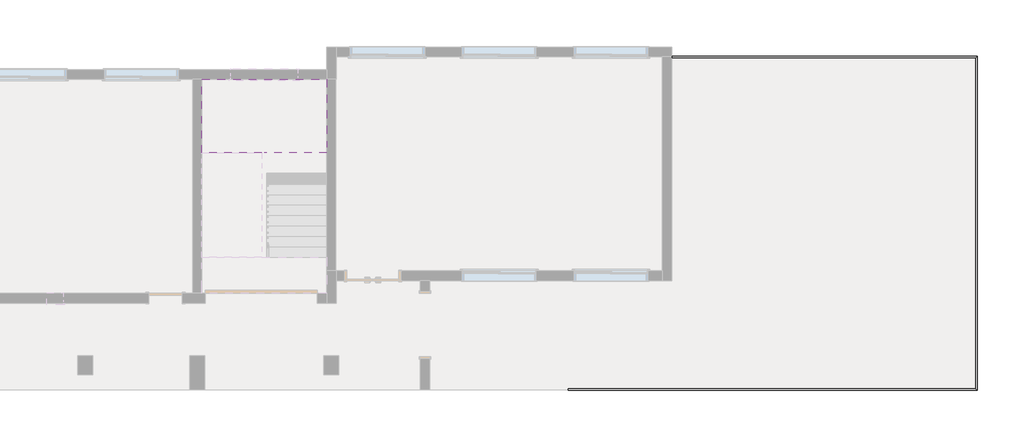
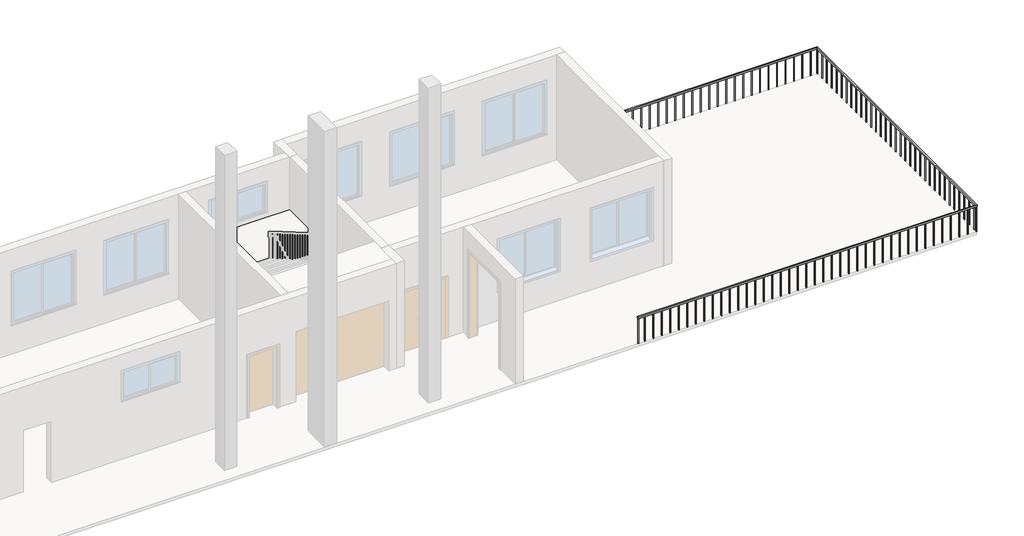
# One storey, part 3 of 3: 1 railing, 1 slab.
"""IFC4 building model written with IfcOpenShell, lengths in millimetres."""

from ifc_helpers import new_model, si_unit, origin, origin_with_axes, place, context, project, spatial, polyline, outline, extrude, faceted_brep, element, save

model = new_model("IFC4")

# Units and contexts
model_context = context("Model", 3, world=origin())
ifc_project = project(units=[si_unit("LENGTHUNIT", "METRE", prefix="MILLI")], contexts=[model_context])

# Site, building, storey
site = spatial("IfcSite", under=ifc_project)
building = spatial("IfcBuilding", under=site)
storey = spatial("IfcBuildingStorey", under=building, Name="标高 1", Elevation=0.0)

# Railing
placement = place(None, origin())
element("IfcRailing", 1, ObjectType="900mm", at=placement, inside=storey, context=model_context, shape_type="SolidModel", body=[
    faceted_brep([(26149.6165825, 2144.0398513, 900.0), (26149.6165825, 2144.0398513, 850.0), (26149.6165825, 2094.0398513, 850.0), (26149.6165825, 2094.0398513, 900.0), (23366.9461532, -6825.9601487, 900.0), (23366.9461532, -6775.9601487, 900.0), (23366.9461532, -6775.9601487, 850.0), (23366.9461532, -6825.9601487, 850.0), (34349.6165825, 2144.0398513, 900.0), (34349.6165825, 2144.0398513, 850.0), (34299.6165825, 2094.0398513, 850.0), (34299.6165825, 2094.0398513, 900.0), (34349.6165825, -6825.9601487, 900.0), (34349.6165825, -6825.9601487, 850.0), (34299.6165825, -6775.9601487, 850.0), (34299.6165825, -6775.9601487, 900.0)], [[[0, 1, 2, 3]], [[4, 5, 6, 7]], [[1, 0, 8, 9]], [[2, 1, 9, 10]], [[3, 2, 10, 11]], [[0, 3, 11, 8]], [[9, 8, 12, 13]], [[10, 9, 13, 14]], [[11, 10, 14, 15]], [[8, 11, 15, 12]], [[13, 12, 4, 7]], [[14, 13, 7, 6]], [[15, 14, 6, 5]], [[12, 15, 5, 4]]]),
    extrude(outline(polyline([(23609.6165825, -6790.9601487), (23609.6165825, -6810.9601487), (23589.6165825, -6810.9601487), (23589.6165825, -6790.9601487), (23609.6165825, -6790.9601487)])), origin_with_axes(), (0.0, 0.0, 1.0), 850.0),
    extrude(outline(polyline([(23884.6165825, -6790.9601487), (23884.6165825, -6810.9601487), (23864.6165825, -6810.9601487), (23864.6165825, -6790.9601487), (23884.6165825, -6790.9601487)])), origin_with_axes(), (0.0, 0.0, 1.0), 850.0),
    extrude(outline(polyline([(24159.6165825, -6790.9601487), (24159.6165825, -6810.9601487), (24139.6165825, -6810.9601487), (24139.6165825, -6790.9601487), (24159.6165825, -6790.9601487)])), origin_with_axes(), (0.0, 0.0, 1.0), 850.0),
    extrude(outline(polyline([(24434.6165825, -6790.9601487), (24434.6165825, -6810.9601487), (24414.6165825, -6810.9601487), (24414.6165825, -6790.9601487), (24434.6165825, -6790.9601487)])), origin_with_axes(), (0.0, 0.0, 1.0), 850.0),
    extrude(outline(polyline([(24709.6165825, -6790.9601487), (24709.6165825, -6810.9601487), (24689.6165825, -6810.9601487), (24689.6165825, -6790.9601487), (24709.6165825, -6790.9601487)])), origin_with_axes(), (0.0, 0.0, 1.0), 850.0),
    extrude(outline(polyline([(24984.6165825, -6790.9601487), (24984.6165825, -6810.9601487), (24964.6165825, -6810.9601487), (24964.6165825, -6790.9601487), (24984.6165825, -6790.9601487)])), origin_with_axes(), (0.0, 0.0, 1.0), 850.0),
    extrude(outline(polyline([(25259.6165825, -6790.9601487), (25259.6165825, -6810.9601487), (25239.6165825, -6810.9601487), (25239.6165825, -6790.9601487), (25259.6165825, -6790.9601487)])), origin_with_axes(), (0.0, 0.0, 1.0), 850.0),
    extrude(outline(polyline([(25534.6165825, -6790.9601487), (25534.6165825, -6810.9601487), (25514.6165825, -6810.9601487), (25514.6165825, -6790.9601487), (25534.6165825, -6790.9601487)])), origin_with_axes(), (0.0, 0.0, 1.0), 850.0),
    extrude(outline(polyline([(25809.6165825, -6790.9601487), (25809.6165825, -6810.9601487), (25789.6165825, -6810.9601487), (25789.6165825, -6790.9601487), (25809.6165825, -6790.9601487)])), origin_with_axes(), (0.0, 0.0, 1.0), 850.0),
    extrude(outline(polyline([(26084.6165825, -6790.9601487), (26084.6165825, -6810.9601487), (26064.6165825, -6810.9601487), (26064.6165825, -6790.9601487), (26084.6165825, -6790.9601487)])), origin_with_axes(), (0.0, 0.0, 1.0), 850.0),
    extrude(outline(polyline([(26359.6165825, -6790.9601487), (26359.6165825, -6810.9601487), (26339.6165825, -6810.9601487), (26339.6165825, -6790.9601487), (26359.6165825, -6790.9601487)])), origin_with_axes(), (0.0, 0.0, 1.0), 850.0),
    extrude(outline(polyline([(26634.6165825, -6790.9601487), (26634.6165825, -6810.9601487), (26614.6165825, -6810.9601487), (26614.6165825, -6790.9601487), (26634.6165825, -6790.9601487)])), origin_with_axes(), (0.0, 0.0, 1.0), 850.0),
    extrude(outline(polyline([(26909.6165825, -6790.9601487), (26909.6165825, -6810.9601487), (26889.6165825, -6810.9601487), (26889.6165825, -6790.9601487), (26909.6165825, -6790.9601487)])), origin_with_axes(), (0.0, 0.0, 1.0), 850.0),
    extrude(outline(polyline([(27184.6165825, -6790.9601487), (27184.6165825, -6810.9601487), (27164.6165825, -6810.9601487), (27164.6165825, -6790.9601487), (27184.6165825, -6790.9601487)])), origin_with_axes(), (0.0, 0.0, 1.0), 850.0),
    extrude(outline(polyline([(27459.6165825, -6790.9601487), (27459.6165825, -6810.9601487), (27439.6165825, -6810.9601487), (27439.6165825, -6790.9601487), (27459.6165825, -6790.9601487)])), origin_with_axes(), (0.0, 0.0, 1.0), 850.0),
    extrude(outline(polyline([(27734.6165825, -6790.9601487), (27734.6165825, -6810.9601487), (27714.6165825, -6810.9601487), (27714.6165825, -6790.9601487), (27734.6165825, -6790.9601487)])), origin_with_axes(), (0.0, 0.0, 1.0), 850.0),
    extrude(outline(polyline([(28009.6165825, -6790.9601487), (28009.6165825, -6810.9601487), (27989.6165825, -6810.9601487), (27989.6165825, -6790.9601487), (28009.6165825, -6790.9601487)])), origin_with_axes(), (0.0, 0.0, 1.0), 850.0),
    extrude(outline(polyline([(28284.6165825, -6790.9601487), (28284.6165825, -6810.9601487), (28264.6165825, -6810.9601487), (28264.6165825, -6790.9601487), (28284.6165825, -6790.9601487)])), origin_with_axes(), (0.0, 0.0, 1.0), 850.0),
    extrude(outline(polyline([(28559.6165825, -6790.9601487), (28559.6165825, -6810.9601487), (28539.6165825, -6810.9601487), (28539.6165825, -6790.9601487), (28559.6165825, -6790.9601487)])), origin_with_axes(), (0.0, 0.0, 1.0), 850.0),
    extrude(outline(polyline([(28834.6165825, -6790.9601487), (28834.6165825, -6810.9601487), (28814.6165825, -6810.9601487), (28814.6165825, -6790.9601487), (28834.6165825, -6790.9601487)])), origin_with_axes(), (0.0, 0.0, 1.0), 850.0),
    extrude(outline(polyline([(29109.6165825, -6790.9601487), (29109.6165825, -6810.9601487), (29089.6165825, -6810.9601487), (29089.6165825, -6790.9601487), (29109.6165825, -6790.9601487)])), origin_with_axes(), (0.0, 0.0, 1.0), 850.0),
    extrude(outline(polyline([(29384.6165825, -6790.9601487), (29384.6165825, -6810.9601487), (29364.6165825, -6810.9601487), (29364.6165825, -6790.9601487), (29384.6165825, -6790.9601487)])), origin_with_axes(), (0.0, 0.0, 1.0), 850.0),
    extrude(outline(polyline([(29659.6165825, -6790.9601487), (29659.6165825, -6810.9601487), (29639.6165825, -6810.9601487), (29639.6165825, -6790.9601487), (29659.6165825, -6790.9601487)])), origin_with_axes(), (0.0, 0.0, 1.0), 850.0),
    extrude(outline(polyline([(29934.6165825, -6790.9601487), (29934.6165825, -6810.9601487), (29914.6165825, -6810.9601487), (29914.6165825, -6790.9601487), (29934.6165825, -6790.9601487)])), origin_with_axes(), (0.0, 0.0, 1.0), 850.0),
    extrude(outline(polyline([(30209.6165825, -6790.9601487), (30209.6165825, -6810.9601487), (30189.6165825, -6810.9601487), (30189.6165825, -6790.9601487), (30209.6165825, -6790.9601487)])), origin_with_axes(), (0.0, 0.0, 1.0), 850.0),
    extrude(outline(polyline([(30484.6165825, -6790.9601487), (30484.6165825, -6810.9601487), (30464.6165825, -6810.9601487), (30464.6165825, -6790.9601487), (30484.6165825, -6790.9601487)])), origin_with_axes(), (0.0, 0.0, 1.0), 850.0),
    extrude(outline(polyline([(30759.6165825, -6790.9601487), (30759.6165825, -6810.9601487), (30739.6165825, -6810.9601487), (30739.6165825, -6790.9601487), (30759.6165825, -6790.9601487)])), origin_with_axes(), (0.0, 0.0, 1.0), 850.0),
    extrude(outline(polyline([(31034.6165825, -6790.9601487), (31034.6165825, -6810.9601487), (31014.6165825, -6810.9601487), (31014.6165825, -6790.9601487), (31034.6165825, -6790.9601487)])), origin_with_axes(), (0.0, 0.0, 1.0), 850.0),
    extrude(outline(polyline([(31309.6165825, -6790.9601487), (31309.6165825, -6810.9601487), (31289.6165825, -6810.9601487), (31289.6165825, -6790.9601487), (31309.6165825, -6790.9601487)])), origin_with_axes(), (0.0, 0.0, 1.0), 850.0),
    extrude(outline(polyline([(31584.6165825, -6790.9601487), (31584.6165825, -6810.9601487), (31564.6165825, -6810.9601487), (31564.6165825, -6790.9601487), (31584.6165825, -6790.9601487)])), origin_with_axes(), (0.0, 0.0, 1.0), 850.0),
    extrude(outline(polyline([(31859.6165825, -6790.9601487), (31859.6165825, -6810.9601487), (31839.6165825, -6810.9601487), (31839.6165825, -6790.9601487), (31859.6165825, -6790.9601487)])), origin_with_axes(), (0.0, 0.0, 1.0), 850.0),
    extrude(outline(polyline([(32134.6165825, -6790.9601487), (32134.6165825, -6810.9601487), (32114.6165825, -6810.9601487), (32114.6165825, -6790.9601487), (32134.6165825, -6790.9601487)])), origin_with_axes(), (0.0, 0.0, 1.0), 850.0),
    extrude(outline(polyline([(32409.6165825, -6790.9601487), (32409.6165825, -6810.9601487), (32389.6165825, -6810.9601487), (32389.6165825, -6790.9601487), (32409.6165825, -6790.9601487)])), origin_with_axes(), (0.0, 0.0, 1.0), 850.0),
    extrude(outline(polyline([(32684.6165825, -6790.9601487), (32684.6165825, -6810.9601487), (32664.6165825, -6810.9601487), (32664.6165825, -6790.9601487), (32684.6165825, -6790.9601487)])), origin_with_axes(), (0.0, 0.0, 1.0), 850.0),
    extrude(outline(polyline([(32959.6165825, -6790.9601487), (32959.6165825, -6810.9601487), (32939.6165825, -6810.9601487), (32939.6165825, -6790.9601487), (32959.6165825, -6790.9601487)])), origin_with_axes(), (0.0, 0.0, 1.0), 850.0),
    extrude(outline(polyline([(33234.6165825, -6790.9601487), (33234.6165825, -6810.9601487), (33214.6165825, -6810.9601487), (33214.6165825, -6790.9601487), (33234.6165825, -6790.9601487)])), origin_with_axes(), (0.0, 0.0, 1.0), 850.0),
    extrude(outline(polyline([(33509.6165825, -6790.9601487), (33509.6165825, -6810.9601487), (33489.6165825, -6810.9601487), (33489.6165825, -6790.9601487), (33509.6165825, -6790.9601487)])), origin_with_axes(), (0.0, 0.0, 1.0), 850.0),
    extrude(outline(polyline([(33784.6165825, -6790.9601487), (33784.6165825, -6810.9601487), (33764.6165825, -6810.9601487), (33764.6165825, -6790.9601487), (33784.6165825, -6790.9601487)])), origin_with_axes(), (0.0, 0.0, 1.0), 850.0),
    extrude(outline(polyline([(34059.6165825, -6790.9601487), (34059.6165825, -6810.9601487), (34039.6165825, -6810.9601487), (34039.6165825, -6790.9601487), (34059.6165825, -6790.9601487)])), origin_with_axes(), (0.0, 0.0, 1.0), 850.0),
    extrude(outline(polyline([(34314.6165825, -6670.9601487), (34334.6165825, -6670.9601487), (34334.6165825, -6690.9601487), (34314.6165825, -6690.9601487), (34314.6165825, -6670.9601487)])), origin_with_axes(), (0.0, 0.0, 1.0), 850.0),
    extrude(outline(polyline([(34314.6165825, -6395.9601487), (34334.6165825, -6395.9601487), (34334.6165825, -6415.9601487), (34314.6165825, -6415.9601487), (34314.6165825, -6395.9601487)])), origin_with_axes(), (0.0, 0.0, 1.0), 850.0),
    extrude(outline(polyline([(34314.6165825, -6120.9601487), (34334.6165825, -6120.9601487), (34334.6165825, -6140.9601487), (34314.6165825, -6140.9601487), (34314.6165825, -6120.9601487)])), origin_with_axes(), (0.0, 0.0, 1.0), 850.0),
    extrude(outline(polyline([(34314.6165825, -5845.9601487), (34334.6165825, -5845.9601487), (34334.6165825, -5865.9601487), (34314.6165825, -5865.9601487), (34314.6165825, -5845.9601487)])), origin_with_axes(), (0.0, 0.0, 1.0), 850.0),
    extrude(outline(polyline([(34314.6165825, -5570.9601487), (34334.6165825, -5570.9601487), (34334.6165825, -5590.9601487), (34314.6165825, -5590.9601487), (34314.6165825, -5570.9601487)])), origin_with_axes(), (0.0, 0.0, 1.0), 850.0),
    extrude(outline(polyline([(34314.6165825, -5295.9601487), (34334.6165825, -5295.9601487), (34334.6165825, -5315.9601487), (34314.6165825, -5315.9601487), (34314.6165825, -5295.9601487)])), origin_with_axes(), (0.0, 0.0, 1.0), 850.0),
    extrude(outline(polyline([(34314.6165825, -5020.9601487), (34334.6165825, -5020.9601487), (34334.6165825, -5040.9601487), (34314.6165825, -5040.9601487), (34314.6165825, -5020.9601487)])), origin_with_axes(), (0.0, 0.0, 1.0), 850.0),
    extrude(outline(polyline([(34314.6165825, -4745.9601487), (34334.6165825, -4745.9601487), (34334.6165825, -4765.9601487), (34314.6165825, -4765.9601487), (34314.6165825, -4745.9601487)])), origin_with_axes(), (0.0, 0.0, 1.0), 850.0),
    extrude(outline(polyline([(34314.6165825, -4470.9601487), (34334.6165825, -4470.9601487), (34334.6165825, -4490.9601487), (34314.6165825, -4490.9601487), (34314.6165825, -4470.9601487)])), origin_with_axes(), (0.0, 0.0, 1.0), 850.0),
    extrude(outline(polyline([(34314.6165825, -4195.9601487), (34334.6165825, -4195.9601487), (34334.6165825, -4215.9601487), (34314.6165825, -4215.9601487), (34314.6165825, -4195.9601487)])), origin_with_axes(), (0.0, 0.0, 1.0), 850.0),
    extrude(outline(polyline([(34314.6165825, -3920.9601487), (34334.6165825, -3920.9601487), (34334.6165825, -3940.9601487), (34314.6165825, -3940.9601487), (34314.6165825, -3920.9601487)])), origin_with_axes(), (0.0, 0.0, 1.0), 850.0),
    extrude(outline(polyline([(34314.6165825, -3645.9601487), (34334.6165825, -3645.9601487), (34334.6165825, -3665.9601487), (34314.6165825, -3665.9601487), (34314.6165825, -3645.9601487)])), origin_with_axes(), (0.0, 0.0, 1.0), 850.0),
    extrude(outline(polyline([(34314.6165825, -3370.9601487), (34334.6165825, -3370.9601487), (34334.6165825, -3390.9601487), (34314.6165825, -3390.9601487), (34314.6165825, -3370.9601487)])), origin_with_axes(), (0.0, 0.0, 1.0), 850.0),
    extrude(outline(polyline([(34314.6165825, -3095.9601487), (34334.6165825, -3095.9601487), (34334.6165825, -3115.9601487), (34314.6165825, -3115.9601487), (34314.6165825, -3095.9601487)])), origin_with_axes(), (0.0, 0.0, 1.0), 850.0),
    extrude(outline(polyline([(34314.6165825, -2820.9601487), (34334.6165825, -2820.9601487), (34334.6165825, -2840.9601487), (34314.6165825, -2840.9601487), (34314.6165825, -2820.9601487)])), origin_with_axes(), (0.0, 0.0, 1.0), 850.0),
    extrude(outline(polyline([(34314.6165825, -2545.9601487), (34334.6165825, -2545.9601487), (34334.6165825, -2565.9601487), (34314.6165825, -2565.9601487), (34314.6165825, -2545.9601487)])), origin_with_axes(), (0.0, 0.0, 1.0), 850.0),
    extrude(outline(polyline([(34314.6165825, -2270.9601487), (34334.6165825, -2270.9601487), (34334.6165825, -2290.9601487), (34314.6165825, -2290.9601487), (34314.6165825, -2270.9601487)])), origin_with_axes(), (0.0, 0.0, 1.0), 850.0),
    extrude(outline(polyline([(34314.6165825, -1995.9601487), (34334.6165825, -1995.9601487), (34334.6165825, -2015.9601487), (34314.6165825, -2015.9601487), (34314.6165825, -1995.9601487)])), origin_with_axes(), (0.0, 0.0, 1.0), 850.0),
    extrude(outline(polyline([(34314.6165825, -1720.9601487), (34334.6165825, -1720.9601487), (34334.6165825, -1740.9601487), (34314.6165825, -1740.9601487), (34314.6165825, -1720.9601487)])), origin_with_axes(), (0.0, 0.0, 1.0), 850.0),
    extrude(outline(polyline([(34314.6165825, -1445.9601487), (34334.6165825, -1445.9601487), (34334.6165825, -1465.9601487), (34314.6165825, -1465.9601487), (34314.6165825, -1445.9601487)])), origin_with_axes(), (0.0, 0.0, 1.0), 850.0),
    extrude(outline(polyline([(34314.6165825, -1170.9601487), (34334.6165825, -1170.9601487), (34334.6165825, -1190.9601487), (34314.6165825, -1190.9601487), (34314.6165825, -1170.9601487)])), origin_with_axes(), (0.0, 0.0, 1.0), 850.0),
    extrude(outline(polyline([(34314.6165825, -895.9601487), (34334.6165825, -895.9601487), (34334.6165825, -915.9601487), (34314.6165825, -915.9601487), (34314.6165825, -895.9601487)])), origin_with_axes(), (0.0, 0.0, 1.0), 850.0),
    extrude(outline(polyline([(34314.6165825, -620.9601487), (34334.6165825, -620.9601487), (34334.6165825, -640.9601487), (34314.6165825, -640.9601487), (34314.6165825, -620.9601487)])), origin_with_axes(), (0.0, 0.0, 1.0), 850.0),
    extrude(outline(polyline([(34314.6165825, -345.9601487), (34334.6165825, -345.9601487), (34334.6165825, -365.9601487), (34314.6165825, -365.9601487), (34314.6165825, -345.9601487)])), origin_with_axes(), (0.0, 0.0, 1.0), 850.0),
    extrude(outline(polyline([(34314.6165825, -70.9601487), (34334.6165825, -70.9601487), (34334.6165825, -90.9601487), (34314.6165825, -90.9601487), (34314.6165825, -70.9601487)])), origin_with_axes(), (0.0, 0.0, 1.0), 850.0),
    extrude(outline(polyline([(34314.6165825, 204.0398513), (34334.6165825, 204.0398513), (34334.6165825, 184.0398513), (34314.6165825, 184.0398513), (34314.6165825, 204.0398513)])), origin_with_axes(), (0.0, 0.0, 1.0), 850.0),
    extrude(outline(polyline([(34314.6165825, 479.0398513), (34334.6165825, 479.0398513), (34334.6165825, 459.0398513), (34314.6165825, 459.0398513), (34314.6165825, 479.0398513)])), origin_with_axes(), (0.0, 0.0, 1.0), 850.0),
    extrude(outline(polyline([(34314.6165825, 754.0398513), (34334.6165825, 754.0398513), (34334.6165825, 734.0398513), (34314.6165825, 734.0398513), (34314.6165825, 754.0398513)])), origin_with_axes(), (0.0, 0.0, 1.0), 850.0),
    extrude(outline(polyline([(34314.6165825, 1029.0398513), (34334.6165825, 1029.0398513), (34334.6165825, 1009.0398513), (34314.6165825, 1009.0398513), (34314.6165825, 1029.0398513)])), origin_with_axes(), (0.0, 0.0, 1.0), 850.0),
    extrude(outline(polyline([(34314.6165825, 1304.0398513), (34334.6165825, 1304.0398513), (34334.6165825, 1284.0398513), (34314.6165825, 1284.0398513), (34314.6165825, 1304.0398513)])), origin_with_axes(), (0.0, 0.0, 1.0), 850.0),
    extrude(outline(polyline([(34314.6165825, 1579.0398513), (34334.6165825, 1579.0398513), (34334.6165825, 1559.0398513), (34314.6165825, 1559.0398513), (34314.6165825, 1579.0398513)])), origin_with_axes(), (0.0, 0.0, 1.0), 850.0),
    extrude(outline(polyline([(34314.6165825, 1854.0398513), (34334.6165825, 1854.0398513), (34334.6165825, 1834.0398513), (34314.6165825, 1834.0398513), (34314.6165825, 1854.0398513)])), origin_with_axes(), (0.0, 0.0, 1.0), 850.0),
    extrude(outline(polyline([(34114.6165825, 2109.0398513), (34114.6165825, 2129.0398513), (34134.6165825, 2129.0398513), (34134.6165825, 2109.0398513), (34114.6165825, 2109.0398513)])), origin_with_axes(), (0.0, 0.0, 1.0), 850.0),
    extrude(outline(polyline([(33839.6165825, 2109.0398513), (33839.6165825, 2129.0398513), (33859.6165825, 2129.0398513), (33859.6165825, 2109.0398513), (33839.6165825, 2109.0398513)])), origin_with_axes(), (0.0, 0.0, 1.0), 850.0),
    extrude(outline(polyline([(33564.6165825, 2109.0398513), (33564.6165825, 2129.0398513), (33584.6165825, 2129.0398513), (33584.6165825, 2109.0398513), (33564.6165825, 2109.0398513)])), origin_with_axes(), (0.0, 0.0, 1.0), 850.0),
    extrude(outline(polyline([(33289.6165825, 2109.0398513), (33289.6165825, 2129.0398513), (33309.6165825, 2129.0398513), (33309.6165825, 2109.0398513), (33289.6165825, 2109.0398513)])), origin_with_axes(), (0.0, 0.0, 1.0), 850.0),
    extrude(outline(polyline([(33014.6165825, 2109.0398513), (33014.6165825, 2129.0398513), (33034.6165825, 2129.0398513), (33034.6165825, 2109.0398513), (33014.6165825, 2109.0398513)])), origin_with_axes(), (0.0, 0.0, 1.0), 850.0),
    extrude(outline(polyline([(32739.6165825, 2109.0398513), (32739.6165825, 2129.0398513), (32759.6165825, 2129.0398513), (32759.6165825, 2109.0398513), (32739.6165825, 2109.0398513)])), origin_with_axes(), (0.0, 0.0, 1.0), 850.0),
    extrude(outline(polyline([(32464.6165825, 2109.0398513), (32464.6165825, 2129.0398513), (32484.6165825, 2129.0398513), (32484.6165825, 2109.0398513), (32464.6165825, 2109.0398513)])), origin_with_axes(), (0.0, 0.0, 1.0), 850.0),
    extrude(outline(polyline([(32189.6165825, 2109.0398513), (32189.6165825, 2129.0398513), (32209.6165825, 2129.0398513), (32209.6165825, 2109.0398513), (32189.6165825, 2109.0398513)])), origin_with_axes(), (0.0, 0.0, 1.0), 850.0),
    extrude(outline(polyline([(31914.6165825, 2109.0398513), (31914.6165825, 2129.0398513), (31934.6165825, 2129.0398513), (31934.6165825, 2109.0398513), (31914.6165825, 2109.0398513)])), origin_with_axes(), (0.0, 0.0, 1.0), 850.0),
    extrude(outline(polyline([(31639.6165825, 2109.0398513), (31639.6165825, 2129.0398513), (31659.6165825, 2129.0398513), (31659.6165825, 2109.0398513), (31639.6165825, 2109.0398513)])), origin_with_axes(), (0.0, 0.0, 1.0), 850.0),
    extrude(outline(polyline([(31364.6165825, 2109.0398513), (31364.6165825, 2129.0398513), (31384.6165825, 2129.0398513), (31384.6165825, 2109.0398513), (31364.6165825, 2109.0398513)])), origin_with_axes(), (0.0, 0.0, 1.0), 850.0),
    extrude(outline(polyline([(31089.6165825, 2109.0398513), (31089.6165825, 2129.0398513), (31109.6165825, 2129.0398513), (31109.6165825, 2109.0398513), (31089.6165825, 2109.0398513)])), origin_with_axes(), (0.0, 0.0, 1.0), 850.0),
    extrude(outline(polyline([(30814.6165825, 2109.0398513), (30814.6165825, 2129.0398513), (30834.6165825, 2129.0398513), (30834.6165825, 2109.0398513), (30814.6165825, 2109.0398513)])), origin_with_axes(), (0.0, 0.0, 1.0), 850.0),
    extrude(outline(polyline([(30539.6165825, 2109.0398513), (30539.6165825, 2129.0398513), (30559.6165825, 2129.0398513), (30559.6165825, 2109.0398513), (30539.6165825, 2109.0398513)])), origin_with_axes(), (0.0, 0.0, 1.0), 850.0),
    extrude(outline(polyline([(30264.6165825, 2109.0398513), (30264.6165825, 2129.0398513), (30284.6165825, 2129.0398513), (30284.6165825, 2109.0398513), (30264.6165825, 2109.0398513)])), origin_with_axes(), (0.0, 0.0, 1.0), 850.0),
    extrude(outline(polyline([(29989.6165825, 2109.0398513), (29989.6165825, 2129.0398513), (30009.6165825, 2129.0398513), (30009.6165825, 2109.0398513), (29989.6165825, 2109.0398513)])), origin_with_axes(), (0.0, 0.0, 1.0), 850.0),
    extrude(outline(polyline([(29714.6165825, 2109.0398513), (29714.6165825, 2129.0398513), (29734.6165825, 2129.0398513), (29734.6165825, 2109.0398513), (29714.6165825, 2109.0398513)])), origin_with_axes(), (0.0, 0.0, 1.0), 850.0),
    extrude(outline(polyline([(29439.6165825, 2109.0398513), (29439.6165825, 2129.0398513), (29459.6165825, 2129.0398513), (29459.6165825, 2109.0398513), (29439.6165825, 2109.0398513)])), origin_with_axes(), (0.0, 0.0, 1.0), 850.0),
    extrude(outline(polyline([(29164.6165825, 2109.0398513), (29164.6165825, 2129.0398513), (29184.6165825, 2129.0398513), (29184.6165825, 2109.0398513), (29164.6165825, 2109.0398513)])), origin_with_axes(), (0.0, 0.0, 1.0), 850.0),
    extrude(outline(polyline([(28889.6165825, 2109.0398513), (28889.6165825, 2129.0398513), (28909.6165825, 2129.0398513), (28909.6165825, 2109.0398513), (28889.6165825, 2109.0398513)])), origin_with_axes(), (0.0, 0.0, 1.0), 850.0),
    extrude(outline(polyline([(28614.6165825, 2109.0398513), (28614.6165825, 2129.0398513), (28634.6165825, 2129.0398513), (28634.6165825, 2109.0398513), (28614.6165825, 2109.0398513)])), origin_with_axes(), (0.0, 0.0, 1.0), 850.0),
    extrude(outline(polyline([(28339.6165825, 2109.0398513), (28339.6165825, 2129.0398513), (28359.6165825, 2129.0398513), (28359.6165825, 2109.0398513), (28339.6165825, 2109.0398513)])), origin_with_axes(), (0.0, 0.0, 1.0), 850.0),
    extrude(outline(polyline([(28064.6165825, 2109.0398513), (28064.6165825, 2129.0398513), (28084.6165825, 2129.0398513), (28084.6165825, 2109.0398513), (28064.6165825, 2109.0398513)])), origin_with_axes(), (0.0, 0.0, 1.0), 850.0),
    extrude(outline(polyline([(27789.6165825, 2109.0398513), (27789.6165825, 2129.0398513), (27809.6165825, 2129.0398513), (27809.6165825, 2109.0398513), (27789.6165825, 2109.0398513)])), origin_with_axes(), (0.0, 0.0, 1.0), 850.0),
    extrude(outline(polyline([(27514.6165825, 2109.0398513), (27514.6165825, 2129.0398513), (27534.6165825, 2129.0398513), (27534.6165825, 2109.0398513), (27514.6165825, 2109.0398513)])), origin_with_axes(), (0.0, 0.0, 1.0), 850.0),
    extrude(outline(polyline([(27239.6165825, 2109.0398513), (27239.6165825, 2129.0398513), (27259.6165825, 2129.0398513), (27259.6165825, 2109.0398513), (27239.6165825, 2109.0398513)])), origin_with_axes(), (0.0, 0.0, 1.0), 850.0),
    extrude(outline(polyline([(26964.6165825, 2109.0398513), (26964.6165825, 2129.0398513), (26984.6165825, 2129.0398513), (26984.6165825, 2109.0398513), (26964.6165825, 2109.0398513)])), origin_with_axes(), (0.0, 0.0, 1.0), 850.0),
    extrude(outline(polyline([(26689.6165825, 2109.0398513), (26689.6165825, 2129.0398513), (26709.6165825, 2129.0398513), (26709.6165825, 2109.0398513), (26689.6165825, 2109.0398513)])), origin_with_axes(), (0.0, 0.0, 1.0), 850.0),
    extrude(outline(polyline([(26414.6165825, 2109.0398513), (26414.6165825, 2129.0398513), (26434.6165825, 2129.0398513), (26434.6165825, 2109.0398513), (26414.6165825, 2109.0398513)])), origin_with_axes(), (0.0, 0.0, 1.0), 850.0),
    extrude(outline(polyline([(34314.6165825, -6790.9601487), (34334.6165825, -6790.9601487), (34334.6165825, -6810.9601487), (34314.6165825, -6810.9601487), (34314.6165825, -6790.9601487)])), origin_with_axes(), (0.0, 0.0, 1.0), 850.0),
    extrude(outline(polyline([(34314.6165825, 2109.0398513), (34314.6165825, 2129.0398513), (34334.6165825, 2129.0398513), (34334.6165825, 2109.0398513), (34314.6165825, 2109.0398513)])), origin_with_axes(), (0.0, 0.0, 1.0), 850.0),
    extrude(outline(polyline([(23386.9461532, -6790.9601487), (23386.9461532, -6810.9601487), (23366.9461532, -6810.9601487), (23366.9461532, -6790.9601487), (23386.9461532, -6790.9601487)])), origin_with_axes(), (0.0, 0.0, 1.0), 850.0),
    extrude(outline(polyline([(26149.6165825, 2109.0398513), (26149.6165825, 2129.0398513), (26169.6165825, 2129.0398513), (26169.6165825, 2109.0398513), (26149.6165825, 2109.0398513)])), origin_with_axes(), (0.0, 0.0, 1.0), 850.0),
])

# Slab
element("IfcSlab", 2, ObjectType="100mm 厚度", at=placement, inside=storey, context=model_context, shape_type="Brep", body=[
    faceted_brep([(15284.6165825, -450.9601487, 1800.0), (16899.6165825, -450.9601487, 1800.0), (16899.6165825, -143.8819252, 1800.0), (16899.6165825, 1519.0398513, 1800.0), (13539.6165825, 1519.0398513, 1800.0), (13539.6165825, -450.9601487, 1800.0), (15154.6165825, -450.9601487, 1800.0), (15284.6165825, -450.9601487, 1700.0), (15284.6165825, -450.9601487, 1636.3636364), (15284.6165825, -450.9601487, 1520.5387006), (16899.6165825, -450.9601487, 1520.5387006), (16899.6165825, -450.9601487, 1636.3636364), (16899.6165825, -143.8819252, 1700.0), (16899.6165825, 1519.0398513, 1700.0), (13539.6165825, 1519.0398513, 1700.0), (13539.6165825, -450.9601487, 1700.0), (15154.6165825, -450.9601487, 1700.0), (15284.6165825, -143.8819252, 1700.0)], [[[0, 1, 2, 3, 4, 5, 6]], [[1, 0, 7, 8, 9, 10, 11]], [[1, 11, 10, 12, 13, 3, 2]], [[4, 3, 13, 14]], [[5, 4, 14, 15]], [[6, 5, 15, 16]], [[0, 6, 16, 7]], [[12, 17, 7, 16, 15, 14, 13]], [[17, 12, 10, 9]], [[7, 17, 9, 8]]]),
])

save(model, "model.ifc")
